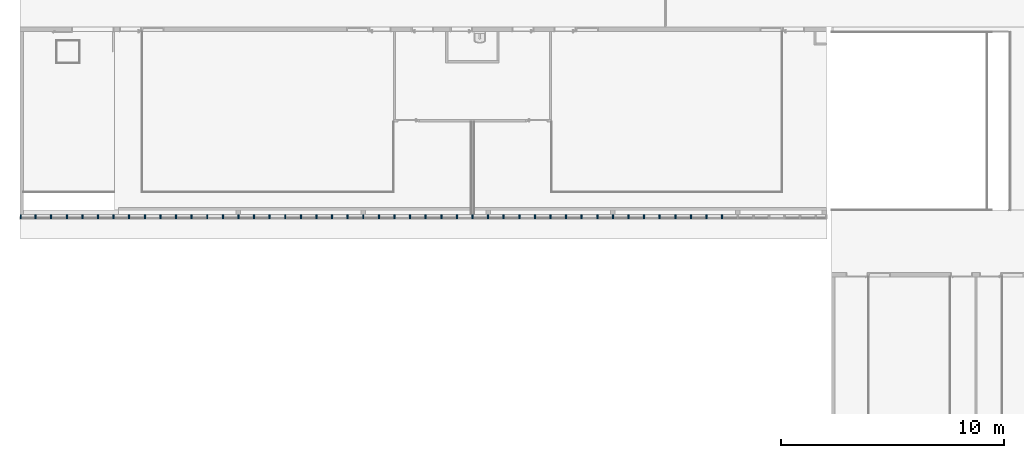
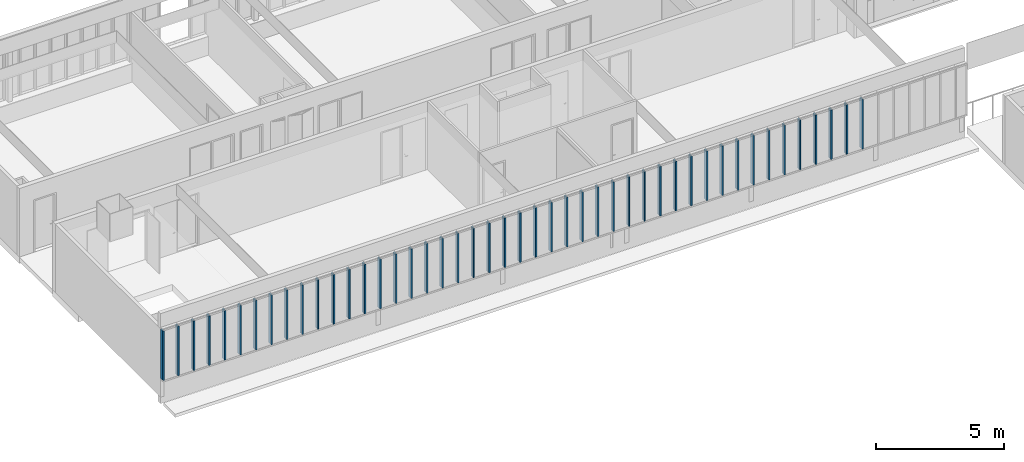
# One storey, part 3 of 87: 46 members, 1 element without a shape of its own.
"""IFC2X3 building model written with IfcOpenShell, lengths in centimetres."""

from ifc_helpers import new_model, entity, si_unit, converted_unit, derived_unit, direction, frame, origin, place, context, subcontext, project, spatial, polyline, outline, extrude, source, transform, mapped, material, type_object, type_shapes, element, aggregate, save


model = new_model("IFC2X3")

# Units and contexts
model_context = context("Model", 3, precision=0.001, world=origin(), true_north=direction((6.12303176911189e-17, 1.0)))
body_context = subcontext(model_context, "Body", "Model", "MODEL_VIEW")
ifc_project = project(units=[si_unit("LENGTHUNIT", "METRE", prefix="CENTI"), si_unit("AREAUNIT", "SQUARE_METRE"), si_unit("VOLUMEUNIT", "CUBIC_METRE"), converted_unit("PLANEANGLEUNIT", "DEGREE", entity("IfcRatioMeasure", 0.0174532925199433), si_unit("PLANEANGLEUNIT", "RADIAN"), dimensions=[0, 0, 0, 0, 0, 0, 0]), si_unit("MASSUNIT", "GRAM", prefix="KILO"), derived_unit("MASSDENSITYUNIT", [(si_unit("MASSUNIT", "GRAM", prefix="KILO"), 1), (si_unit("LENGTHUNIT", "METRE"), -3)]), si_unit("TIMEUNIT", "SECOND"), si_unit("FREQUENCYUNIT", "HERTZ"), si_unit("THERMODYNAMICTEMPERATUREUNIT", "DEGREE_CELSIUS"), derived_unit("THERMALTRANSMITTANCEUNIT", [(si_unit("MASSUNIT", "GRAM", prefix="KILO"), 1), (si_unit("THERMODYNAMICTEMPERATUREUNIT", "KELVIN"), -1), (si_unit("TIMEUNIT", "SECOND"), -3)]), derived_unit("VOLUMETRICFLOWRATEUNIT", [(si_unit("LENGTHUNIT", "METRE"), 3), (si_unit("TIMEUNIT", "SECOND"), -1)]), si_unit("ELECTRICCURRENTUNIT", "AMPERE"), si_unit("ELECTRICVOLTAGEUNIT", "VOLT"), si_unit("POWERUNIT", "WATT"), si_unit("FORCEUNIT", "NEWTON", prefix="KILO"), si_unit("ILLUMINANCEUNIT", "LUX"), si_unit("LUMINOUSFLUXUNIT", "LUMEN"), si_unit("LUMINOUSINTENSITYUNIT", "CANDELA"), derived_unit("USERDEFINED", [(si_unit("MASSUNIT", "GRAM", prefix="KILO"), -1), (si_unit("LENGTHUNIT", "METRE"), -2), (si_unit("TIMEUNIT", "SECOND"), 3), (si_unit("LUMINOUSFLUXUNIT", "LUMEN"), 1)]), derived_unit("LINEARVELOCITYUNIT", [(si_unit("LENGTHUNIT", "METRE"), 1), (si_unit("TIMEUNIT", "SECOND"), -1)]), si_unit("PRESSUREUNIT", "PASCAL"), derived_unit("USERDEFINED", [(si_unit("LENGTHUNIT", "METRE"), -2), (si_unit("MASSUNIT", "GRAM", prefix="KILO"), 1), (si_unit("TIMEUNIT", "SECOND"), -2)])], contexts=[model_context])

# Site, building, storey
site_placement = place(None, frame((-2781.94577612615, 7442.24238424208, 0.0)))
site = spatial("IfcSite", under=ifc_project, at=site_placement, Name="Default", CompositionType="ELEMENT")
building_placement = place(site_placement, origin())
building = spatial("IfcBuilding", under=site, at=building_placement, CompositionType="ELEMENT")
storey_placement = place(building_placement, frame((0.0, 0.0, 774.0)))
storey = spatial("IfcBuildingStorey", under=building, at=storey_placement, Name="TR - N02 - ARCH", CompositionType="ELEMENT", Elevation=774.0)

# Curtain wall, members
curtain_wall_type = type_object("IfcCurtainWallType", Name="Mur-rideau:07 - mur rideau trame 70cm", PredefinedType="NOTDEFINED")
curtain_wall_placement = place(storey_placement, frame((0.0, 0.0, -774.0)))
curtain_wall = element("IfcCurtainWall", 1, at=curtain_wall_placement, inside=storey, type_object=curtain_wall_type, Name="Mur-rideau:07 - mur rideau trame 70cm", ObjectType="Mur-rideau:07 - mur rideau trame 70cm")
ifc_material = material(Name="Aluminium")
member_type_1 = type_object("IfcMemberType", Name="150 x 25mm Détails", PredefinedType="MEMBER")
shared_shape_1 = source(origin(), body_context, "Body", "SweptSolid", [
    extrude(outline(polyline([(-5.6666666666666, -3.25), (-3.66666666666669, -3.25), (-3.66666666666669, -0.868749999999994), (-0.166666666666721, -0.868749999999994), (-0.166666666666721, -3.25000000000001), (13.3333333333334, -3.24999999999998), (13.3333333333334, 3.25000000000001), (-0.166666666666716, 3.25000000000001), (-0.166666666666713, 0.868749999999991), (-3.66666666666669, 0.868749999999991), (-3.66666666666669, 3.24999999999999), (-5.6666666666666, 3.24999999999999), (-5.6666666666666, -3.25)])), frame((-3.24999999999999, -1.96666666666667, -236.0), z_axis=(0.0, 0.0, 1.0), x_axis=(0.0, -1.0, 0.0)), (0.0, 0.0, 1.0), 236.0),
])
type_shapes(member_type_1, [shared_shape_1])
member_1_placement = place(storey_placement, frame((-8409.49987766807, -1946.27903364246, 326.0), z_axis=(0.0, 0.0, 1.0), x_axis=(-1.0, 0.0, 0.0)))
member_1 = element("IfcMember", 2, at=member_1_placement, type_object=member_type_1, material=ifc_material, Name="Meneau rectangulaire:150 x 25mm Détails", ObjectType="Meneau rectangulaire:150 x 25mm Détails", context=body_context, shape_type="MappedRepresentation", body=[
    mapped(shared_shape_1, transform((0.0, 0.0, 0.0), scale=1.0)),
])
member_type_2 = type_object("IfcMemberType", Name="150 x 25mm Détails", PredefinedType="MEMBER")
shared_shape_2 = source(origin(), body_context, "Body", "SweptSolid", [
    extrude(outline(polyline([(-5.66666666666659, -3.24999999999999), (-3.66666666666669, -3.24999999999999), (-3.66666666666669, -0.86874999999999), (-0.166666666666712, -0.86874999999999), (-0.166666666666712, -3.25000000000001), (13.3333333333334, -3.25000000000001), (13.3333333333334, 3.24999999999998), (-0.166666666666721, 3.24999999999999), (-0.166666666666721, 0.868749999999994), (-3.66666666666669, 0.868749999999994), (-3.66666666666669, 3.25), (-5.66666666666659, 3.25), (-5.66666666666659, -3.24999999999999)])), frame((0.0, -1.96666666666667, -236.0), z_axis=(0.0, 0.0, 1.0), x_axis=(0.0, -1.0, 0.0)), (0.0, 0.0, 1.0), 236.0),
])
type_shapes(member_type_2, [shared_shape_2])
member_2_placement = place(storey_placement, frame((-8339.49987763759, -1946.27903364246, 90.0), z_axis=(0.0, 0.0, -1.0), x_axis=(1.0, 0.0, 0.0)))
member_2 = element("IfcMember", 3, at=member_2_placement, type_object=member_type_2, material=ifc_material, Name="Meneau rectangulaire:150 x 25mm Détails", ObjectType="Meneau rectangulaire:150 x 25mm Détails", context=body_context, shape_type="MappedRepresentation", body=[
    mapped(shared_shape_2, transform((0.0, 0.0, 0.0), scale=1.0)),
])
member_3_placement = place(storey_placement, frame((-8269.49987763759, -1946.27903364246, 90.0), z_axis=(0.0, 0.0, -1.0), x_axis=(1.0, 0.0, 0.0)))
member_3 = element("IfcMember", 4, at=member_3_placement, type_object=member_type_2, material=ifc_material, Name="Meneau rectangulaire:150 x 25mm Détails", ObjectType="Meneau rectangulaire:150 x 25mm Détails", context=body_context, shape_type="MappedRepresentation", body=[
    mapped(shared_shape_2, transform((0.0, 0.0, 0.0), scale=1.0)),
])
member_4_placement = place(storey_placement, frame((-8199.49987763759, -1946.27903364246, 90.0), z_axis=(0.0, 0.0, -1.0), x_axis=(1.0, 0.0, 0.0)))
member_4 = element("IfcMember", 5, at=member_4_placement, type_object=member_type_2, material=ifc_material, Name="Meneau rectangulaire:150 x 25mm Détails", ObjectType="Meneau rectangulaire:150 x 25mm Détails", context=body_context, shape_type="MappedRepresentation", body=[
    mapped(shared_shape_2, transform((0.0, 0.0, 0.0), scale=1.0)),
])
member_5_placement = place(storey_placement, frame((-8129.49987763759, -1946.27903364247, 90.0), z_axis=(0.0, 0.0, -1.0), x_axis=(1.0, 0.0, 0.0)))
member_5 = element("IfcMember", 6, at=member_5_placement, type_object=member_type_2, material=ifc_material, Name="Meneau rectangulaire:150 x 25mm Détails", ObjectType="Meneau rectangulaire:150 x 25mm Détails", context=body_context, shape_type="MappedRepresentation", body=[
    mapped(shared_shape_2, transform((0.0, 0.0, 0.0), scale=1.0)),
])
member_6_placement = place(storey_placement, frame((-8059.49987763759, -1946.27903364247, 90.0), z_axis=(0.0, 0.0, -1.0), x_axis=(1.0, 0.0, 0.0)))
member_6 = element("IfcMember", 7, at=member_6_placement, type_object=member_type_2, material=ifc_material, Name="Meneau rectangulaire:150 x 25mm Détails", ObjectType="Meneau rectangulaire:150 x 25mm Détails", context=body_context, shape_type="MappedRepresentation", body=[
    mapped(shared_shape_2, transform((0.0, 0.0, 0.0), scale=1.0)),
])
member_7_placement = place(storey_placement, frame((-7989.49987763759, -1946.27903364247, 90.0), z_axis=(0.0, 0.0, -1.0), x_axis=(1.0, 0.0, 0.0)))
member_7 = element("IfcMember", 8, at=member_7_placement, type_object=member_type_2, material=ifc_material, Name="Meneau rectangulaire:150 x 25mm Détails", ObjectType="Meneau rectangulaire:150 x 25mm Détails", context=body_context, shape_type="MappedRepresentation", body=[
    mapped(shared_shape_2, transform((0.0, 0.0, 0.0), scale=1.0)),
])
member_8_placement = place(storey_placement, frame((-7919.49987763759, -1946.27903364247, 90.0), z_axis=(0.0, 0.0, -1.0), x_axis=(1.0, 0.0, 0.0)))
member_8 = element("IfcMember", 9, at=member_8_placement, type_object=member_type_2, material=ifc_material, Name="Meneau rectangulaire:150 x 25mm Détails", ObjectType="Meneau rectangulaire:150 x 25mm Détails", context=body_context, shape_type="MappedRepresentation", body=[
    mapped(shared_shape_2, transform((0.0, 0.0, 0.0), scale=1.0)),
])
member_9_placement = place(storey_placement, frame((-7849.49987763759, -1946.27903364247, 90.0), z_axis=(0.0, 0.0, -1.0), x_axis=(1.0, 0.0, 0.0)))
member_9 = element("IfcMember", 10, at=member_9_placement, type_object=member_type_2, material=ifc_material, Name="Meneau rectangulaire:150 x 25mm Détails", ObjectType="Meneau rectangulaire:150 x 25mm Détails", context=body_context, shape_type="MappedRepresentation", body=[
    mapped(shared_shape_2, transform((0.0, 0.0, 0.0), scale=1.0)),
])
member_10_placement = place(storey_placement, frame((-7779.49987763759, -1946.27903364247, 90.0), z_axis=(0.0, 0.0, -1.0), x_axis=(1.0, 0.0, 0.0)))
member_10 = element("IfcMember", 11, at=member_10_placement, type_object=member_type_2, material=ifc_material, Name="Meneau rectangulaire:150 x 25mm Détails", ObjectType="Meneau rectangulaire:150 x 25mm Détails", context=body_context, shape_type="MappedRepresentation", body=[
    mapped(shared_shape_2, transform((0.0, 0.0, 0.0), scale=1.0)),
])
member_11_placement = place(storey_placement, frame((-7709.49987763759, -1946.27903364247, 90.0), z_axis=(0.0, 0.0, -1.0), x_axis=(1.0, 0.0, 0.0)))
member_11 = element("IfcMember", 12, at=member_11_placement, type_object=member_type_2, material=ifc_material, Name="Meneau rectangulaire:150 x 25mm Détails", ObjectType="Meneau rectangulaire:150 x 25mm Détails", context=body_context, shape_type="MappedRepresentation", body=[
    mapped(shared_shape_2, transform((0.0, 0.0, 0.0), scale=1.0)),
])
member_12_placement = place(storey_placement, frame((-7639.49987763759, -1946.27903364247, 90.0), z_axis=(0.0, 0.0, -1.0), x_axis=(1.0, 0.0, 0.0)))
member_12 = element("IfcMember", 13, at=member_12_placement, type_object=member_type_2, material=ifc_material, Name="Meneau rectangulaire:150 x 25mm Détails", ObjectType="Meneau rectangulaire:150 x 25mm Détails", context=body_context, shape_type="MappedRepresentation", body=[
    mapped(shared_shape_2, transform((0.0, 0.0, 0.0), scale=1.0)),
])
member_13_placement = place(storey_placement, frame((-7569.49987763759, -1946.27903364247, 90.0), z_axis=(0.0, 0.0, -1.0), x_axis=(1.0, 0.0, 0.0)))
member_13 = element("IfcMember", 14, at=member_13_placement, type_object=member_type_2, material=ifc_material, Name="Meneau rectangulaire:150 x 25mm Détails", ObjectType="Meneau rectangulaire:150 x 25mm Détails", context=body_context, shape_type="MappedRepresentation", body=[
    mapped(shared_shape_2, transform((0.0, 0.0, 0.0), scale=1.0)),
])
member_14_placement = place(storey_placement, frame((-7499.49987763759, -1946.27903364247, 90.0), z_axis=(0.0, 0.0, -1.0), x_axis=(1.0, 0.0, 0.0)))
member_14 = element("IfcMember", 15, at=member_14_placement, type_object=member_type_2, material=ifc_material, Name="Meneau rectangulaire:150 x 25mm Détails", ObjectType="Meneau rectangulaire:150 x 25mm Détails", context=body_context, shape_type="MappedRepresentation", body=[
    mapped(shared_shape_2, transform((0.0, 0.0, 0.0), scale=1.0)),
])
member_15_placement = place(storey_placement, frame((-7429.49987763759, -1946.27903364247, 90.0), z_axis=(0.0, 0.0, -1.0), x_axis=(1.0, 0.0, 0.0)))
member_15 = element("IfcMember", 16, at=member_15_placement, type_object=member_type_2, material=ifc_material, Name="Meneau rectangulaire:150 x 25mm Détails", ObjectType="Meneau rectangulaire:150 x 25mm Détails", context=body_context, shape_type="MappedRepresentation", body=[
    mapped(shared_shape_2, transform((0.0, 0.0, 0.0), scale=1.0)),
])
member_16_placement = place(storey_placement, frame((-7359.49987763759, -1946.27903364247, 90.0), z_axis=(0.0, 0.0, -1.0), x_axis=(1.0, 0.0, 0.0)))
member_16 = element("IfcMember", 17, at=member_16_placement, type_object=member_type_2, material=ifc_material, Name="Meneau rectangulaire:150 x 25mm Détails", ObjectType="Meneau rectangulaire:150 x 25mm Détails", context=body_context, shape_type="MappedRepresentation", body=[
    mapped(shared_shape_2, transform((0.0, 0.0, 0.0), scale=1.0)),
])
member_17_placement = place(storey_placement, frame((-7289.49987763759, -1946.27903364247, 90.0), z_axis=(0.0, 0.0, -1.0), x_axis=(1.0, 0.0, 0.0)))
member_17 = element("IfcMember", 18, at=member_17_placement, type_object=member_type_2, material=ifc_material, Name="Meneau rectangulaire:150 x 25mm Détails", ObjectType="Meneau rectangulaire:150 x 25mm Détails", context=body_context, shape_type="MappedRepresentation", body=[
    mapped(shared_shape_2, transform((0.0, 0.0, 0.0), scale=1.0)),
])
member_18_placement = place(storey_placement, frame((-7219.49987763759, -1946.27903364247, 90.0), z_axis=(0.0, 0.0, -1.0), x_axis=(1.0, 0.0, 0.0)))
member_18 = element("IfcMember", 19, at=member_18_placement, type_object=member_type_2, material=ifc_material, Name="Meneau rectangulaire:150 x 25mm Détails", ObjectType="Meneau rectangulaire:150 x 25mm Détails", context=body_context, shape_type="MappedRepresentation", body=[
    mapped(shared_shape_2, transform((0.0, 0.0, 0.0), scale=1.0)),
])
member_19_placement = place(storey_placement, frame((-7149.49987763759, -1946.27903364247, 90.0), z_axis=(0.0, 0.0, -1.0), x_axis=(1.0, 0.0, 0.0)))
member_19 = element("IfcMember", 20, at=member_19_placement, type_object=member_type_2, material=ifc_material, Name="Meneau rectangulaire:150 x 25mm Détails", ObjectType="Meneau rectangulaire:150 x 25mm Détails", context=body_context, shape_type="MappedRepresentation", body=[
    mapped(shared_shape_2, transform((0.0, 0.0, 0.0), scale=1.0)),
])
member_20_placement = place(storey_placement, frame((-7079.49987763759, -1946.27903364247, 90.0), z_axis=(0.0, 0.0, -1.0), x_axis=(1.0, 0.0, 0.0)))
member_20 = element("IfcMember", 21, at=member_20_placement, type_object=member_type_2, material=ifc_material, Name="Meneau rectangulaire:150 x 25mm Détails", ObjectType="Meneau rectangulaire:150 x 25mm Détails", context=body_context, shape_type="MappedRepresentation", body=[
    mapped(shared_shape_2, transform((0.0, 0.0, 0.0), scale=1.0)),
])
member_21_placement = place(storey_placement, frame((-7009.49987763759, -1946.27903364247, 90.0), z_axis=(0.0, 0.0, -1.0), x_axis=(1.0, 0.0, 0.0)))
member_21 = element("IfcMember", 22, at=member_21_placement, type_object=member_type_2, material=ifc_material, Name="Meneau rectangulaire:150 x 25mm Détails", ObjectType="Meneau rectangulaire:150 x 25mm Détails", context=body_context, shape_type="MappedRepresentation", body=[
    mapped(shared_shape_2, transform((0.0, 0.0, 0.0), scale=1.0)),
])
member_22_placement = place(storey_placement, frame((-6939.49987763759, -1946.27903364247, 90.0), z_axis=(0.0, 0.0, -1.0), x_axis=(1.0, 0.0, 0.0)))
member_22 = element("IfcMember", 23, at=member_22_placement, type_object=member_type_2, material=ifc_material, Name="Meneau rectangulaire:150 x 25mm Détails", ObjectType="Meneau rectangulaire:150 x 25mm Détails", context=body_context, shape_type="MappedRepresentation", body=[
    mapped(shared_shape_2, transform((0.0, 0.0, 0.0), scale=1.0)),
])
member_23_placement = place(storey_placement, frame((-6869.49987763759, -1946.27903364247, 90.0), z_axis=(0.0, 0.0, -1.0), x_axis=(1.0, 0.0, 0.0)))
member_23 = element("IfcMember", 24, at=member_23_placement, type_object=member_type_2, material=ifc_material, Name="Meneau rectangulaire:150 x 25mm Détails", ObjectType="Meneau rectangulaire:150 x 25mm Détails", context=body_context, shape_type="MappedRepresentation", body=[
    mapped(shared_shape_2, transform((0.0, 0.0, 0.0), scale=1.0)),
])
member_24_placement = place(storey_placement, frame((-6799.49987763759, -1946.27903364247, 90.0), z_axis=(0.0, 0.0, -1.0), x_axis=(1.0, 0.0, 0.0)))
member_24 = element("IfcMember", 25, at=member_24_placement, type_object=member_type_2, material=ifc_material, Name="Meneau rectangulaire:150 x 25mm Détails", ObjectType="Meneau rectangulaire:150 x 25mm Détails", context=body_context, shape_type="MappedRepresentation", body=[
    mapped(shared_shape_2, transform((0.0, 0.0, 0.0), scale=1.0)),
])
member_25_placement = place(storey_placement, frame((-6729.49987763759, -1946.27903364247, 90.0), z_axis=(0.0, 0.0, -1.0), x_axis=(1.0, 0.0, 0.0)))
member_25 = element("IfcMember", 26, at=member_25_placement, type_object=member_type_2, material=ifc_material, Name="Meneau rectangulaire:150 x 25mm Détails", ObjectType="Meneau rectangulaire:150 x 25mm Détails", context=body_context, shape_type="MappedRepresentation", body=[
    mapped(shared_shape_2, transform((0.0, 0.0, 0.0), scale=1.0)),
])
member_26_placement = place(storey_placement, frame((-6659.49987763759, -1946.27903364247, 90.0), z_axis=(0.0, 0.0, -1.0), x_axis=(1.0, 0.0, 0.0)))
member_26 = element("IfcMember", 27, at=member_26_placement, type_object=member_type_2, material=ifc_material, Name="Meneau rectangulaire:150 x 25mm Détails", ObjectType="Meneau rectangulaire:150 x 25mm Détails", context=body_context, shape_type="MappedRepresentation", body=[
    mapped(shared_shape_2, transform((0.0, 0.0, 0.0), scale=1.0)),
])
member_27_placement = place(storey_placement, frame((-6589.49987763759, -1946.27903364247, 90.0), z_axis=(0.0, 0.0, -1.0), x_axis=(1.0, 0.0, 0.0)))
member_27 = element("IfcMember", 28, at=member_27_placement, type_object=member_type_2, material=ifc_material, Name="Meneau rectangulaire:150 x 25mm Détails", ObjectType="Meneau rectangulaire:150 x 25mm Détails", context=body_context, shape_type="MappedRepresentation", body=[
    mapped(shared_shape_2, transform((0.0, 0.0, 0.0), scale=1.0)),
])
member_28_placement = place(storey_placement, frame((-6519.49987763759, -1946.27903364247, 90.0), z_axis=(0.0, 0.0, -1.0), x_axis=(1.0, 0.0, 0.0)))
member_28 = element("IfcMember", 29, at=member_28_placement, type_object=member_type_2, material=ifc_material, Name="Meneau rectangulaire:150 x 25mm Détails", ObjectType="Meneau rectangulaire:150 x 25mm Détails", context=body_context, shape_type="MappedRepresentation", body=[
    mapped(shared_shape_2, transform((0.0, 0.0, 0.0), scale=1.0)),
])
member_29_placement = place(storey_placement, frame((-6449.49987763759, -1946.27903364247, 90.0), z_axis=(0.0, 0.0, -1.0), x_axis=(1.0, 0.0, 0.0)))
member_29 = element("IfcMember", 30, at=member_29_placement, type_object=member_type_2, material=ifc_material, Name="Meneau rectangulaire:150 x 25mm Détails", ObjectType="Meneau rectangulaire:150 x 25mm Détails", context=body_context, shape_type="MappedRepresentation", body=[
    mapped(shared_shape_2, transform((0.0, 0.0, 0.0), scale=1.0)),
])
member_30_placement = place(storey_placement, frame((-6379.49987763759, -1946.27903364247, 90.0), z_axis=(0.0, 0.0, -1.0), x_axis=(1.0, 0.0, 0.0)))
member_30 = element("IfcMember", 31, at=member_30_placement, type_object=member_type_2, material=ifc_material, Name="Meneau rectangulaire:150 x 25mm Détails", ObjectType="Meneau rectangulaire:150 x 25mm Détails", context=body_context, shape_type="MappedRepresentation", body=[
    mapped(shared_shape_2, transform((0.0, 0.0, 0.0), scale=1.0)),
])
member_31_placement = place(storey_placement, frame((-6309.49987763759, -1946.27903364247, 90.0), z_axis=(0.0, 0.0, -1.0), x_axis=(1.0, 0.0, 0.0)))
member_31 = element("IfcMember", 32, at=member_31_placement, type_object=member_type_2, material=ifc_material, Name="Meneau rectangulaire:150 x 25mm Détails", ObjectType="Meneau rectangulaire:150 x 25mm Détails", context=body_context, shape_type="MappedRepresentation", body=[
    mapped(shared_shape_2, transform((0.0, 0.0, 0.0), scale=1.0)),
])
member_32_placement = place(storey_placement, frame((-6239.49987763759, -1946.27903364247, 90.0), z_axis=(0.0, 0.0, -1.0), x_axis=(1.0, 0.0, 0.0)))
member_32 = element("IfcMember", 33, at=member_32_placement, type_object=member_type_2, material=ifc_material, Name="Meneau rectangulaire:150 x 25mm Détails", ObjectType="Meneau rectangulaire:150 x 25mm Détails", context=body_context, shape_type="MappedRepresentation", body=[
    mapped(shared_shape_2, transform((0.0, 0.0, 0.0), scale=1.0)),
])
member_33_placement = place(storey_placement, frame((-6169.49987763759, -1946.27903364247, 90.0), z_axis=(0.0, 0.0, -1.0), x_axis=(1.0, 0.0, 0.0)))
member_33 = element("IfcMember", 34, at=member_33_placement, type_object=member_type_2, material=ifc_material, Name="Meneau rectangulaire:150 x 25mm Détails", ObjectType="Meneau rectangulaire:150 x 25mm Détails", context=body_context, shape_type="MappedRepresentation", body=[
    mapped(shared_shape_2, transform((0.0, 0.0, 0.0), scale=1.0)),
])
member_34_placement = place(storey_placement, frame((-6099.49987763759, -1946.27903364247, 90.0), z_axis=(0.0, 0.0, -1.0), x_axis=(1.0, 0.0, 0.0)))
member_34 = element("IfcMember", 35, at=member_34_placement, type_object=member_type_2, material=ifc_material, Name="Meneau rectangulaire:150 x 25mm Détails", ObjectType="Meneau rectangulaire:150 x 25mm Détails", context=body_context, shape_type="MappedRepresentation", body=[
    mapped(shared_shape_2, transform((0.0, 0.0, 0.0), scale=1.0)),
])
member_35_placement = place(storey_placement, frame((-6029.49987763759, -1946.27903364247, 90.0), z_axis=(0.0, 0.0, -1.0), x_axis=(1.0, 0.0, 0.0)))
member_35 = element("IfcMember", 36, at=member_35_placement, type_object=member_type_2, material=ifc_material, Name="Meneau rectangulaire:150 x 25mm Détails", ObjectType="Meneau rectangulaire:150 x 25mm Détails", context=body_context, shape_type="MappedRepresentation", body=[
    mapped(shared_shape_2, transform((0.0, 0.0, 0.0), scale=1.0)),
])
member_36_placement = place(storey_placement, frame((-5959.49987763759, -1946.27903364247, 90.0), z_axis=(0.0, 0.0, -1.0), x_axis=(1.0, 0.0, 0.0)))
member_36 = element("IfcMember", 37, at=member_36_placement, type_object=member_type_2, material=ifc_material, Name="Meneau rectangulaire:150 x 25mm Détails", ObjectType="Meneau rectangulaire:150 x 25mm Détails", context=body_context, shape_type="MappedRepresentation", body=[
    mapped(shared_shape_2, transform((0.0, 0.0, 0.0), scale=1.0)),
])
member_37_placement = place(storey_placement, frame((-5889.49987763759, -1946.27903364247, 90.0), z_axis=(0.0, 0.0, -1.0), x_axis=(1.0, 0.0, 0.0)))
member_37 = element("IfcMember", 38, at=member_37_placement, type_object=member_type_2, material=ifc_material, Name="Meneau rectangulaire:150 x 25mm Détails", ObjectType="Meneau rectangulaire:150 x 25mm Détails", context=body_context, shape_type="MappedRepresentation", body=[
    mapped(shared_shape_2, transform((0.0, 0.0, 0.0), scale=1.0)),
])
member_38_placement = place(storey_placement, frame((-5819.49987763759, -1946.27903364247, 90.0), z_axis=(0.0, 0.0, -1.0), x_axis=(1.0, 0.0, 0.0)))
member_38 = element("IfcMember", 39, at=member_38_placement, type_object=member_type_2, material=ifc_material, Name="Meneau rectangulaire:150 x 25mm Détails", ObjectType="Meneau rectangulaire:150 x 25mm Détails", context=body_context, shape_type="MappedRepresentation", body=[
    mapped(shared_shape_2, transform((0.0, 0.0, 0.0), scale=1.0)),
])
member_39_placement = place(storey_placement, frame((-5749.49987763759, -1946.27903364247, 90.0), z_axis=(0.0, 0.0, -1.0), x_axis=(1.0, 0.0, 0.0)))
member_39 = element("IfcMember", 40, at=member_39_placement, type_object=member_type_2, material=ifc_material, Name="Meneau rectangulaire:150 x 25mm Détails", ObjectType="Meneau rectangulaire:150 x 25mm Détails", context=body_context, shape_type="MappedRepresentation", body=[
    mapped(shared_shape_2, transform((0.0, 0.0, 0.0), scale=1.0)),
])
member_40_placement = place(storey_placement, frame((-5679.49987763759, -1946.27903364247, 90.0), z_axis=(0.0, 0.0, -1.0), x_axis=(1.0, 0.0, 0.0)))
member_40 = element("IfcMember", 41, at=member_40_placement, type_object=member_type_2, material=ifc_material, Name="Meneau rectangulaire:150 x 25mm Détails", ObjectType="Meneau rectangulaire:150 x 25mm Détails", context=body_context, shape_type="MappedRepresentation", body=[
    mapped(shared_shape_2, transform((0.0, 0.0, 0.0), scale=1.0)),
])
member_41_placement = place(storey_placement, frame((-5609.49987763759, -1946.27903364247, 90.0), z_axis=(0.0, 0.0, -1.0), x_axis=(1.0, 0.0, 0.0)))
member_41 = element("IfcMember", 42, at=member_41_placement, type_object=member_type_2, material=ifc_material, Name="Meneau rectangulaire:150 x 25mm Détails", ObjectType="Meneau rectangulaire:150 x 25mm Détails", context=body_context, shape_type="MappedRepresentation", body=[
    mapped(shared_shape_2, transform((0.0, 0.0, 0.0), scale=1.0)),
])
member_42_placement = place(storey_placement, frame((-5539.49987763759, -1946.27903364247, 90.0), z_axis=(0.0, 0.0, -1.0), x_axis=(1.0, 0.0, 0.0)))
member_42 = element("IfcMember", 43, at=member_42_placement, type_object=member_type_2, material=ifc_material, Name="Meneau rectangulaire:150 x 25mm Détails", ObjectType="Meneau rectangulaire:150 x 25mm Détails", context=body_context, shape_type="MappedRepresentation", body=[
    mapped(shared_shape_2, transform((0.0, 0.0, 0.0), scale=1.0)),
])
member_43_placement = place(storey_placement, frame((-5469.49987763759, -1946.27903364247, 90.0), z_axis=(0.0, 0.0, -1.0), x_axis=(1.0, 0.0, 0.0)))
member_43 = element("IfcMember", 44, at=member_43_placement, type_object=member_type_2, material=ifc_material, Name="Meneau rectangulaire:150 x 25mm Détails", ObjectType="Meneau rectangulaire:150 x 25mm Détails", context=body_context, shape_type="MappedRepresentation", body=[
    mapped(shared_shape_2, transform((0.0, 0.0, 0.0), scale=1.0)),
])
member_44_placement = place(storey_placement, frame((-5399.49987763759, -1946.27903364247, 90.0), z_axis=(0.0, 0.0, -1.0), x_axis=(1.0, 0.0, 0.0)))
member_44 = element("IfcMember", 45, at=member_44_placement, type_object=member_type_2, material=ifc_material, Name="Meneau rectangulaire:150 x 25mm Détails", ObjectType="Meneau rectangulaire:150 x 25mm Détails", context=body_context, shape_type="MappedRepresentation", body=[
    mapped(shared_shape_2, transform((0.0, 0.0, 0.0), scale=1.0)),
])
member_45_placement = place(storey_placement, frame((-5329.49987763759, -1946.27903364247, 90.0), z_axis=(0.0, 0.0, -1.0), x_axis=(1.0, 0.0, 0.0)))
member_45 = element("IfcMember", 46, at=member_45_placement, type_object=member_type_2, material=ifc_material, Name="Meneau rectangulaire:150 x 25mm Détails", ObjectType="Meneau rectangulaire:150 x 25mm Détails", context=body_context, shape_type="MappedRepresentation", body=[
    mapped(shared_shape_2, transform((0.0, 0.0, 0.0), scale=1.0)),
])
member_46_placement = place(storey_placement, frame((-5259.49987763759, -1946.27903364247, 90.0), z_axis=(0.0, 0.0, -1.0), x_axis=(1.0, 0.0, 0.0)))
member_46 = element("IfcMember", 47, at=member_46_placement, type_object=member_type_2, material=ifc_material, Name="Meneau rectangulaire:150 x 25mm Détails", ObjectType="Meneau rectangulaire:150 x 25mm Détails", context=body_context, shape_type="MappedRepresentation", body=[
    mapped(shared_shape_2, transform((0.0, 0.0, 0.0), scale=1.0)),
])
aggregate(curtain_wall, [member_1, member_2, member_3, member_4, member_5, member_6, member_7, member_8, member_9, member_10, member_11, member_12, member_13, member_14, member_15, member_16, member_17, member_18, member_19, member_20, member_21, member_22, member_23, member_24, member_25, member_26, member_27, member_28, member_29, member_30, member_31, member_32, member_33, member_34, member_35, member_36, member_37, member_38, member_39, member_40, member_41, member_42, member_43, member_44, member_45, member_46])

save(model, "model.ifc")
